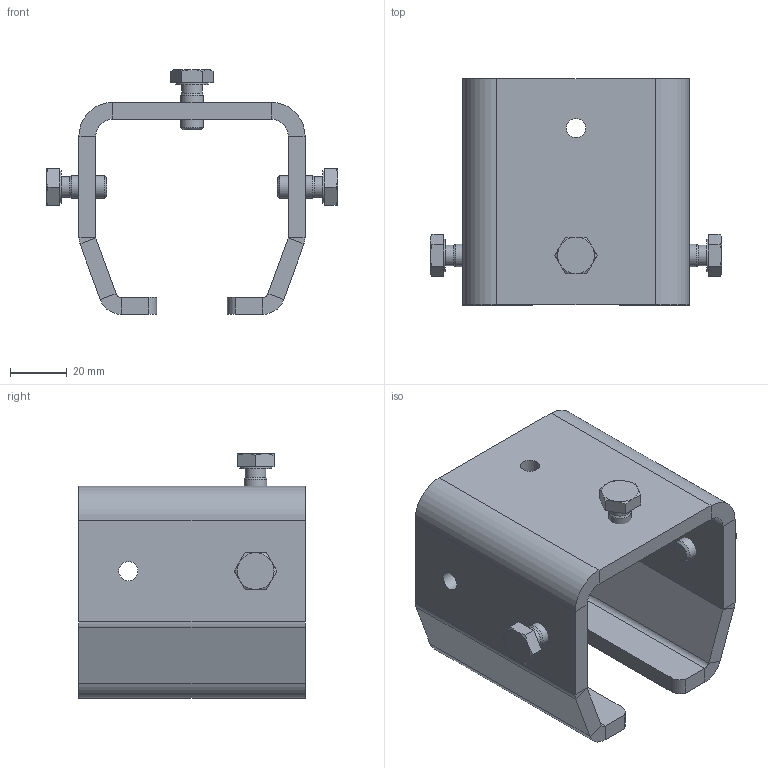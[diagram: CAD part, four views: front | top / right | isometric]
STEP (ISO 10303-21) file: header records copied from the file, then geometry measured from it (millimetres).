
FILE_DESCRIPTION(/* description */ ('Schweissmuffe Nr.3'),/* implementation_level */ '2;1');
FILE_NAME(/* name */ 'D:\Public\STP\010335230-TP.stp',/* time_stamp */ '2020-05-13T14:02:52+02:00',/* author */ ('O. Loukota'),/* organization */ (''),/* preprocessor_version */ 'ST-DEVELOPER v17.2',/* originating_system */ 'Autodesk Inventor 2019',/* authorisation */ '');
FILE_SCHEMA (('AUTOMOTIVE_DESIGN { 1 0 10303 214 3 1 1 }'));
Length unit declared in the file: millimetre
Products named in the file (3): 010335230; 335140030; DIN EN ISO 4017 - M8  x 16
Assembly tree (4 placements, depth 2):
  010335230
    335140030
    DIN EN ISO 4017 - M8  x 16  x3
Bounding box: 103.07 x 80 x 86.53 mm (x, y, z)
Volume: 117133.6 mm3; surface area: 44791 mm2
Topology: 4 solids, 4 shells, 127 faces, 285 edges, 172 vertices
Faces by surface type: plane 72, cylinder 31, cone 24
Full cylindrical faces by diameter (mm): 6.647 x3, 6.8 x3, 7.323 x3, 8 x3, 11.4 x3
Entity records: 2447 total; most frequent: DIRECTION 427, CARTESIAN_POINT 415, ORIENTED_EDGE 378, EDGE_CURVE 189, AXIS2_PLACEMENT_3D 158, LINE 111, VECTOR 111, VERTEX_POINT 110
